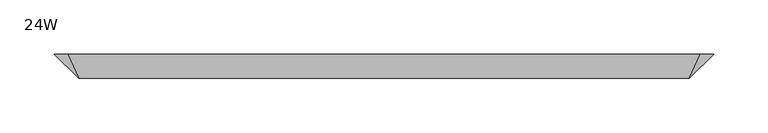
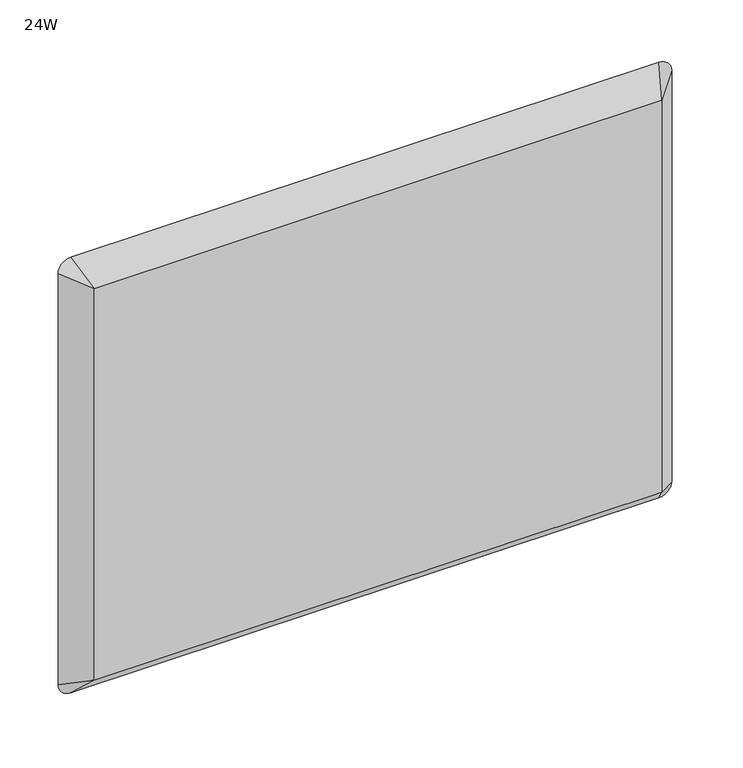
"""IFC4 building model written with IfcOpenShell, lengths in millimetres: furniture geometry, Steelcase - Answer Solution - Tackboards for Use with Wall Channels : 24W."""

from ifc_helpers import new_model, si_unit, frame, origin, place, context, project, spatial, circle_curve, source, transform, mapped, element, save
from ifc_brep_helpers import plane_surface, spline_surface, advanced_brep


def furniture_24w_0eacc534(model_context):
    return source(origin(), model_context, "Body", "AdvancedBrep", [
        advanced_brep(
        [(624.84, -58.549664, 1158.24), (60.96, -58.549664, 1158.24), (60.96, -58.549664, 746.76), (624.84, -58.549664, 746.76), (635.0, -36.19754, 1181.1), (647.7, -36.19754, 1168.4), (647.7, -36.19754, 736.6), (635.0, -36.19754, 723.9), (50.8, -36.19754, 723.9), (38.1, -36.19754, 736.6), (38.1, -36.19754, 1168.4), (50.8, -36.19754, 1181.1)],
        [
            (0, 1),
            (1, 2),
            (2, 3),
            (3, 0),
            (4, 5, circle_curve(frame((635.0, -36.19754, 1168.4), z_axis=(0.0, 1.0, 0.0), x_axis=(-1.0, 0.0, 0.0)), 12.7)),
            (5, 6),
            (6, 7, circle_curve(frame((635.0, -36.19754, 736.6), z_axis=(0.0, 1.0, 0.0), x_axis=(-1.0, 0.0, 0.0)), 12.7)),
            (7, 8),
            (8, 9, circle_curve(frame((50.8, -36.19754, 736.6), z_axis=(0.0, 1.0, 0.0), x_axis=(-1.0, 0.0, 0.0)), 12.7)),
            (9, 10),
            (10, 11, circle_curve(frame((50.8, -36.19754, 1168.4), z_axis=(0.0, 1.0, 0.0), x_axis=(-1.0, 0.0, 0.0)), 12.7)),
            (11, 4),
            (4, 0),
            (0, 5),
            (3, 6),
            (3, 7),
            (2, 8),
            (2, 9),
            (1, 10),
            (1, 11),
        ],
        [
            plane_surface(frame((342.9, -58.549664, 952.5), z_axis=(0.0, -1.0, 0.0), x_axis=(1.0, 0.0, 0.0))),
            plane_surface(frame((342.9, -36.19754, 952.5), z_axis=(0.0, 1.0, 0.0), x_axis=(1.0, 0.0, 0.0))),
            spline_surface(2, 1, [[(647.7, -36.19754, 1168.4), (624.84, -58.549664, 1158.24)], [(647.7000000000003, -36.19754, 1181.1000000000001), (624.84, -58.549664, 1158.24)], [(635.0, -36.19754, 1181.1), (624.84, -58.549664, 1158.24)]], [3, 3], [2, 2], [0.0, 1.0], [0.0, 1.0], weights=[[1.0, 1.0], [0.7071067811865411, 0.7071067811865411], [1.0, 1.0]]),
            plane_surface(frame((647.7, -36.19754, 952.5), z_axis=(0.6991196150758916, -0.7150047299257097, 0.0), x_axis=(0.0, 0.0, 1.0))),
            spline_surface(2, 1, [[(635.0, -36.19754, 723.9), (624.84, -58.549664, 746.76)], [(647.7, -36.19754, 723.9), (624.84, -58.549664, 746.76)], [(647.7, -36.19754, 736.6), (624.84, -58.549664, 746.76)]], [3, 3], [2, 2], [0.0, 1.0], [0.0, 1.0], weights=[[1.0, 1.0], [0.7071067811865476, 0.7071067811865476], [1.0, 1.0]]),
            plane_surface(frame((342.9, -36.19754, 723.9), z_axis=(0.0, -0.7150047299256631, -0.6991196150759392), x_axis=(1.0, 0.0, 0.0))),
            spline_surface(2, 1, [[(38.1, -36.19754, 736.6), (60.96, -58.549664, 746.76)], [(38.10000000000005, -36.19754, 723.9), (60.96, -58.549664, 746.76)], [(50.8, -36.19754, 723.9), (60.96, -58.549664, 746.76)]], [3, 3], [2, 2], [0.0, 1.0], [0.0, 1.0], weights=[[1.0, 1.0], [0.7071067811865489, 0.7071067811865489], [1.0, 1.0]]),
            plane_surface(frame((38.1, -36.19754, 952.5), z_axis=(-0.699119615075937, -0.7150047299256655, 0.0), x_axis=(0.0, 0.0, -1.0))),
            spline_surface(2, 1, [[(50.8, -36.19754, 1181.1), (60.96, -58.549664, 1158.24)], [(38.10000000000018, -36.19754, 1181.0999999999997), (60.96, -58.549664, 1158.24)], [(38.1, -36.19754, 1168.4), (60.96, -58.549664, 1158.24)]], [3, 3], [2, 2], [0.0, 1.0], [0.0, 1.0], weights=[[1.0, 1.0], [0.7071067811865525, 0.7071067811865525], [1.0, 1.0]]),
            plane_surface(frame((342.9, -36.19754, 1181.1), z_axis=(0.0, -0.7150047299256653, 0.6991196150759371), x_axis=(-1.0, 0.0, 0.0))),
        ],
        [
            (0, [[1, 2, 3, 4]]),
            (1, [[5, 6, 7, 8, 9, 10, 11, 12]]),
            (2, [[-5, 13, 14]]),
            (3, [[-6, -14, -4, 15]]),
            (4, [[-7, -15, 16]]),
            (5, [[-8, -16, -3, 17]]),
            (6, [[-9, -17, 18]]),
            (7, [[-10, -18, -2, 19]]),
            (8, [[-11, -19, 20]]),
            (9, [[-12, -20, -1, -13]]),
        ],
    ),
    ])


if __name__ == "__main__":
    model = new_model("IFC4")
    model_context = context("Model", 3, world=origin())
    ifc_project = project(units=[si_unit("LENGTHUNIT", "METRE", prefix="MILLI")], contexts=[model_context])
    site = spatial("IfcSite", under=ifc_project)
    building = spatial("IfcBuilding", under=site)
    placement = place(None, origin())
    furniture_24w_shape = furniture_24w_0eacc534(model_context)
    element("IfcFurniture", 1, ObjectType="Steelcase - Answer Solution - Tackboards for Use with Wall Channels : 24W", at=placement, inside=building, context=model_context, shape_type="MappedRepresentation", body=[
        mapped(furniture_24w_shape, transform((0.0, 0.0, 0.0), x_axis=(1.0, 0.0, 0.0), y_axis=(0.0, 1.0, 0.0), z_axis=(0.0, 0.0, 1.0))),
    ])
    save(model, "model.ifc")
